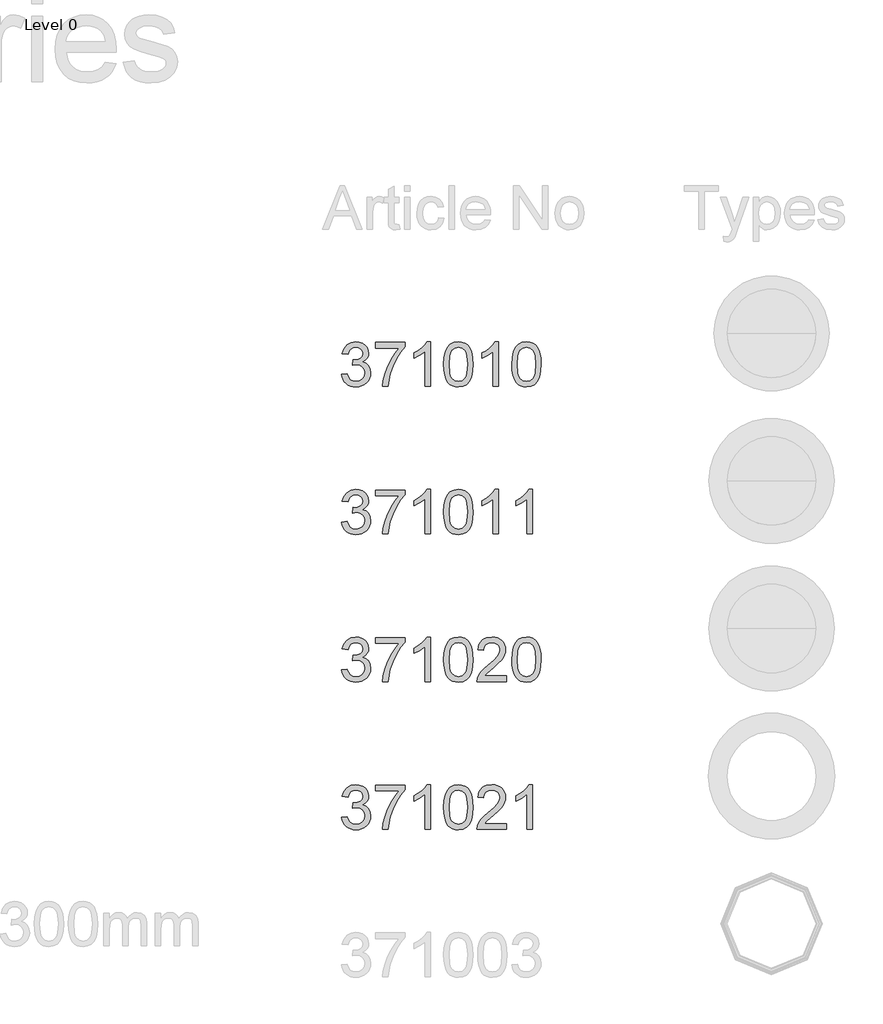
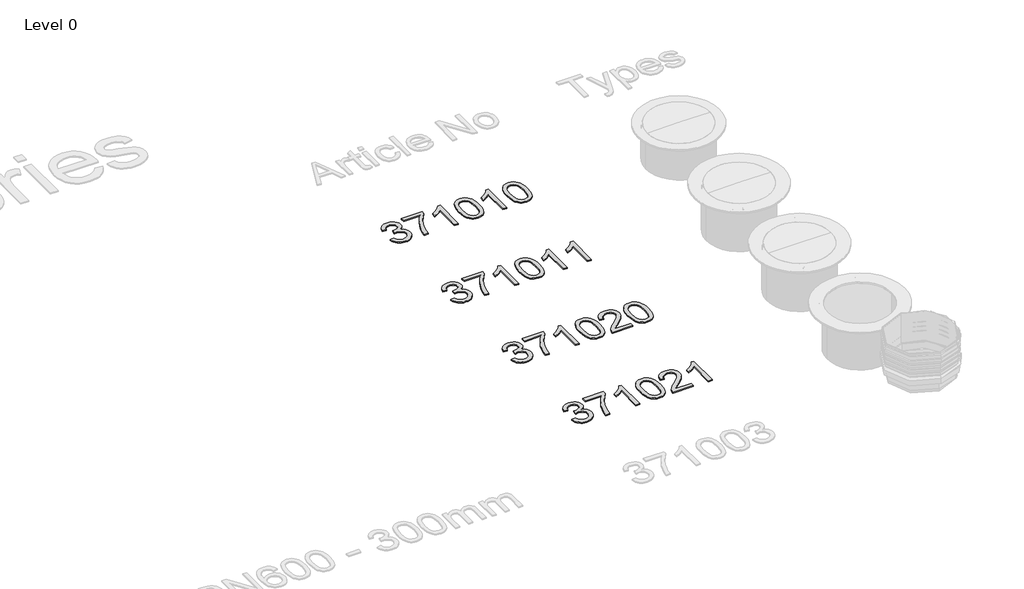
# One storey, part 7 of 14: 4 proxies.
"""IFC4 building model written with IfcOpenShell, lengths in millimetres."""

from ifc_helpers import new_model, si_unit, origin, origin_with_axes, place, context, project, spatial, polyline, outline, extrude, element, save

model = new_model("IFC4")

# Units and contexts
model_context = context("Model", 3, world=origin())
ifc_project = project(units=[si_unit("LENGTHUNIT", "METRE", prefix="MILLI")], contexts=[model_context])

# Site, building, storey
site = spatial("IfcSite", under=ifc_project)
building = spatial("IfcBuilding", under=site)
storey = spatial("IfcBuildingStorey", under=building, Name="Level 0", Elevation=0.0)

# Proxies
placement = place(None, origin())
element("IfcBuildingElementProxy", 1, Name="300mm Arial", ObjectType="300mm Arial", at=placement, inside=storey, context=model_context, shape_type="SweptSolid", body=[
    extrude(outline(polyline([(-6184.7460239, -8329.8209266), (-6147.0749076, -8325.1120371), (-6138.6412129, -8348.7852435), (-6126.2895749, -8364.7697162), (-6109.4129884, -8373.8747955), (-6087.404448, -8376.909822), (-6061.5791319, -8372.7343614), (-6041.6399278, -8360.2079794), (-6028.8928167, -8341.5195741), (-6024.6437796, -8318.8580432), (-6028.8560285, -8297.3461435), (-6041.492775, -8279.8993399), (-6060.6226388, -8268.3386482), (-6084.3142393, -8264.4850843), (-6110.7281665, -8268.6053626), (-6106.5343118, -8230.9342463), (-6100.501047, -8231.3757047), (-6077.9314866, -8228.671772), (-6057.7531592, -8220.5599741), (-6043.516126, -8206.8379756), (-6038.7704482, -8187.3034417), (-6042.2101449, -8171.0338605), (-6052.5292349, -8157.8360939), (-6068.2745843, -8149.0896994), (-6087.9930592, -8146.1742346), (-6107.7483223, -8149.1172906), (-6123.8983419, -8157.9464585), (-6135.6889599, -8172.6617383), (-6142.3660181, -8193.26313), (-6180.0371344, -8188.5542405), (-6168.9454922, -8154.727491), (-6149.2086232, -8129.472392), (-6122.2060848, -8113.7454368), (-6089.3174344, -8108.5031183), (-6065.6350309, -8111.0874893), (-6043.884008, -8118.8406024), (-6025.5450905, -8131.0726787), (-6012.0990036, -8147.0939396), (-6003.8492499, -8165.5524187), (-6001.0993319, -8185.0961497), (-6003.7112941, -8203.3063085), (-6011.5471806, -8219.8242101), (-6024.4966268, -8233.8956964), (-6042.4492682, -8244.7666093), (-6018.8680323, -8254.294753), (-6001.3936375, -8270.518349), (-5990.5779069, -8292.5544805), (-5986.9726633, -8319.5202308), (-5988.7752851, -8338.6317004), (-5994.1831504, -8356.2348539), (-6003.1962593, -8372.3296912), (-6015.8146117, -8386.9162123), (-6031.1874806, -8399.0195299), (-6048.4641388, -8407.6647568), (-6067.6445863, -8412.8518929), (-6088.7288232, -8414.5809383), (-6107.7851105, -8413.1048118), (-6125.1491407, -8408.6764323), (-6140.8209137, -8401.2957998), (-6154.8004295, -8390.9629142), (-6166.5220696, -8378.284781), (-6175.4202154, -8363.8684053), (-6181.4948668, -8347.7137872), (-6184.7460239, -8329.8209266)])), origin_with_axes(), (0.0, 0.0, 1.0), 10.0),
    extrude(outline(polyline([(-5954.0104366, -8150.8831242), (-5954.0104366, -8113.2120079), (-5756.237076, -8113.2120079), (-5756.237076, -8143.6726371), (-5784.4260338, -8179.3479935), (-5812.3390802, -8224.7170406), (-5836.9595827, -8275.6411058), (-5855.2709091, -8327.9815166), (-5864.2472297, -8367.142555), (-5869.2504249, -8409.8720488), (-5906.9215412, -8409.8720488), (-5902.8472481, -8371.0421042), (-5891.948744, -8324.8913079), (-5874.5203345, -8275.9721996), (-5850.8563251, -8228.8373189), (-5823.2283873, -8186.2273869), (-5793.9081923, -8150.8831242), (-5954.0104366, -8150.8831242)])), origin_with_axes(), (0.0, 0.0, 1.0), 10.0),
    extrude(outline(polyline([(-5582.008163, -8409.8720488), (-5619.6792793, -8409.8720488), (-5619.6792793, -8175.016183), (-5655.3638329, -8200.4368289), (-5695.021512, -8219.4563281), (-5695.021512, -8183.8453509), (-5665.4346025, -8167.7505136), (-5639.8024245, -8148.6022558), (-5619.5965059, -8128.2399874), (-5606.2883747, -8108.5031183), (-5582.008163, -8108.5031183), (-5582.008163, -8409.8720488)])), origin_with_axes(), (0.0, 0.0, 1.0), 10.0),
    extrude(outline(polyline([(-5492.5392618, -8261.6156047), (-5489.7709498, -8213.3770781), (-5481.4660138, -8174.9058184), (-5467.7072271, -8145.6132146), (-5448.5773634, -8124.9106553), (-5423.9384668, -8112.6050026), (-5393.6525815, -8108.5031183), (-5370.4392276, -8110.9311395), (-5349.6538949, -8118.215203), (-5332.2714706, -8130.0702003), (-5319.2668421, -8146.2110228), (-5309.4443928, -8166.4997149), (-5301.6085063, -8190.7983206), (-5296.4765525, -8221.654423), (-5294.7659012, -8261.6156047), (-5297.5066221, -8309.5782198), (-5305.7287847, -8347.957509), (-5319.4047978, -8377.277704), (-5338.5070704, -8398.0630367), (-5363.2011494, -8410.4514629), (-5393.6525815, -8414.5809383), (-5414.401126, -8412.7875136), (-5432.7952258, -8407.4072394), (-5448.8348808, -8398.4401158), (-5462.520091, -8385.8861427), (-5475.6534782, -8363.1924221), (-5485.0344691, -8334.9160923), (-5490.6630636, -8301.0571531), (-5492.5392618, -8261.6156047)]), holes=[polyline([(-5454.8681455, -8261.5420283), (-5450.4535616, -8320.7986207), (-5444.9353316, -8341.0666194), (-5437.2098097, -8355.0944197), (-5417.4913348, -8371.4559714), (-5393.6525815, -8376.909822), (-5369.8138282, -8371.4375773), (-5350.0953533, -8355.0208433), (-5342.3698314, -8340.9700503), (-5336.8516015, -8320.7066502), (-5332.4370175, -8261.5420283), (-5336.7044487, -8203.6190082), (-5342.0387376, -8183.4176881), (-5349.5067421, -8169.0564947), (-5369.1884288, -8151.8947997), (-5394.0940399, -8146.1742346), (-5417.6752758, -8151.214218), (-5436.6211985, -8166.334168), (-5444.6042378, -8181.9691528), (-5450.3064088, -8203.0487911), (-5454.8681455, -8261.5420283)])]), origin_with_axes(), (0.0, 0.0, 1.0), 10.0),
    extrude(outline(polyline([(-5120.5369883, -8409.8720488), (-5158.2081046, -8409.8720488), (-5158.2081046, -8175.016183), (-5193.8926581, -8200.4368289), (-5233.5503372, -8219.4563281), (-5233.5503372, -8183.8453509), (-5203.9634277, -8167.7505136), (-5178.3312497, -8148.6022558), (-5158.1253311, -8128.2399874), (-5144.8172, -8108.5031183), (-5120.5369883, -8108.5031183), (-5120.5369883, -8409.8720488)])), origin_with_axes(), (0.0, 0.0, 1.0), 10.0),
    extrude(outline(polyline([(-5031.0680871, -8261.6156047), (-5028.299775, -8213.3770781), (-5019.994839, -8174.9058184), (-5006.2360524, -8145.6132146), (-4987.1061886, -8124.9106553), (-4962.467292, -8112.6050026), (-4932.1814068, -8108.5031183), (-4908.9680529, -8110.9311395), (-4888.1827201, -8118.215203), (-4870.8002959, -8130.0702003), (-4857.7956673, -8146.2110228), (-4847.9732181, -8166.4997149), (-4840.1373316, -8190.7983206), (-4835.0053777, -8221.654423), (-4833.2947265, -8261.6156047), (-4836.0354473, -8309.5782198), (-4844.2576099, -8347.957509), (-4857.9336231, -8377.277704), (-4877.0358957, -8398.0630367), (-4901.7299746, -8410.4514629), (-4932.1814068, -8414.5809383), (-4952.9299513, -8412.7875136), (-4971.324051, -8407.4072394), (-4987.363706, -8398.4401158), (-5001.0489163, -8385.8861427), (-5014.1823035, -8363.1924221), (-5023.5632944, -8334.9160923), (-5029.1918889, -8301.0571531), (-5031.0680871, -8261.6156047)]), holes=[polyline([(-4993.3969708, -8261.5420283), (-4988.9823868, -8320.7986207), (-4983.4641569, -8341.0666194), (-4975.738635, -8355.0944197), (-4956.02016, -8371.4559714), (-4932.1814068, -8376.909822), (-4908.3426535, -8371.4375773), (-4888.6241785, -8355.0208433), (-4880.8986566, -8340.9700503), (-4875.3804267, -8320.7066502), (-4870.9658428, -8261.5420283), (-4875.2332739, -8203.6190082), (-4880.5675628, -8183.4176881), (-4888.0355673, -8169.0564947), (-4907.7172541, -8151.8947997), (-4932.6228652, -8146.1742346), (-4956.204101, -8151.214218), (-4975.1500238, -8166.334168), (-4983.1330631, -8181.9691528), (-4988.835234, -8203.0487911), (-4993.3969708, -8261.5420283)])]), origin_with_axes(), (0.0, 0.0, 1.0), 10.0),
])
element("IfcBuildingElementProxy", 2, Name="300mm Arial", ObjectType="300mm Arial", at=placement, inside=storey, context=model_context, shape_type="SweptSolid", body=[
    extrude(outline(polyline([(-6184.7460239, -9329.8209266), (-6147.0749076, -9325.1120371), (-6138.6412129, -9348.7852435), (-6126.2895749, -9364.7697162), (-6109.4129884, -9373.8747955), (-6087.404448, -9376.909822), (-6061.5791319, -9372.7343614), (-6041.6399278, -9360.2079794), (-6028.8928167, -9341.5195741), (-6024.6437796, -9318.8580432), (-6028.8560285, -9297.3461435), (-6041.492775, -9279.8993399), (-6060.6226388, -9268.3386482), (-6084.3142393, -9264.4850843), (-6110.7281665, -9268.6053626), (-6106.5343118, -9230.9342463), (-6100.501047, -9231.3757047), (-6077.9314866, -9228.671772), (-6057.7531592, -9220.5599741), (-6043.516126, -9206.8379756), (-6038.7704482, -9187.3034417), (-6042.2101449, -9171.0338605), (-6052.5292349, -9157.8360939), (-6068.2745843, -9149.0896994), (-6087.9930592, -9146.1742346), (-6107.7483223, -9149.1172906), (-6123.8983419, -9157.9464585), (-6135.6889599, -9172.6617383), (-6142.3660181, -9193.26313), (-6180.0371344, -9188.5542405), (-6168.9454922, -9154.727491), (-6149.2086232, -9129.472392), (-6122.2060848, -9113.7454368), (-6089.3174344, -9108.5031183), (-6065.6350309, -9111.0874893), (-6043.884008, -9118.8406024), (-6025.5450905, -9131.0726787), (-6012.0990036, -9147.0939396), (-6003.8492499, -9165.5524187), (-6001.0993319, -9185.0961497), (-6003.7112941, -9203.3063085), (-6011.5471806, -9219.8242101), (-6024.4966268, -9233.8956964), (-6042.4492682, -9244.7666093), (-6018.8680323, -9254.294753), (-6001.3936375, -9270.518349), (-5990.5779069, -9292.5544805), (-5986.9726633, -9319.5202308), (-5988.7752851, -9338.6317004), (-5994.1831504, -9356.2348539), (-6003.1962593, -9372.3296912), (-6015.8146117, -9386.9162123), (-6031.1874806, -9399.0195299), (-6048.4641388, -9407.6647568), (-6067.6445863, -9412.8518929), (-6088.7288232, -9414.5809383), (-6107.7851105, -9413.1048118), (-6125.1491407, -9408.6764323), (-6140.8209137, -9401.2957998), (-6154.8004295, -9390.9629142), (-6166.5220696, -9378.284781), (-6175.4202154, -9363.8684053), (-6181.4948668, -9347.7137872), (-6184.7460239, -9329.8209266)])), origin_with_axes(), (0.0, 0.0, 1.0), 10.0),
    extrude(outline(polyline([(-5954.0104366, -9150.8831242), (-5954.0104366, -9113.2120079), (-5756.237076, -9113.2120079), (-5756.237076, -9143.6726371), (-5784.4260338, -9179.3479935), (-5812.3390802, -9224.7170406), (-5836.9595827, -9275.6411058), (-5855.2709091, -9327.9815166), (-5864.2472297, -9367.142555), (-5869.2504249, -9409.8720488), (-5906.9215412, -9409.8720488), (-5902.8472481, -9371.0421042), (-5891.948744, -9324.8913079), (-5874.5203345, -9275.9721996), (-5850.8563251, -9228.8373189), (-5823.2283873, -9186.2273869), (-5793.9081923, -9150.8831242), (-5954.0104366, -9150.8831242)])), origin_with_axes(), (0.0, 0.0, 1.0), 10.0),
    extrude(outline(polyline([(-5582.008163, -9409.8720488), (-5619.6792793, -9409.8720488), (-5619.6792793, -9175.016183), (-5655.3638329, -9200.4368289), (-5695.021512, -9219.4563281), (-5695.021512, -9183.8453509), (-5665.4346025, -9167.7505136), (-5639.8024245, -9148.6022558), (-5619.5965059, -9128.2399874), (-5606.2883747, -9108.5031183), (-5582.008163, -9108.5031183), (-5582.008163, -9409.8720488)])), origin_with_axes(), (0.0, 0.0, 1.0), 10.0),
    extrude(outline(polyline([(-5492.5392618, -9261.6156047), (-5489.7709498, -9213.3770781), (-5481.4660138, -9174.9058184), (-5467.7072271, -9145.6132146), (-5448.5773634, -9124.9106553), (-5423.9384668, -9112.6050026), (-5393.6525815, -9108.5031183), (-5370.4392276, -9110.9311395), (-5349.6538949, -9118.215203), (-5332.2714706, -9130.0702003), (-5319.2668421, -9146.2110228), (-5309.4443928, -9166.4997149), (-5301.6085063, -9190.7983206), (-5296.4765525, -9221.654423), (-5294.7659012, -9261.6156047), (-5297.5066221, -9309.5782198), (-5305.7287847, -9347.957509), (-5319.4047978, -9377.277704), (-5338.5070704, -9398.0630367), (-5363.2011494, -9410.4514629), (-5393.6525815, -9414.5809383), (-5414.401126, -9412.7875136), (-5432.7952258, -9407.4072394), (-5448.8348808, -9398.4401158), (-5462.520091, -9385.8861427), (-5475.6534782, -9363.1924221), (-5485.0344691, -9334.9160923), (-5490.6630636, -9301.0571531), (-5492.5392618, -9261.6156047)]), holes=[polyline([(-5454.8681455, -9261.5420283), (-5450.4535616, -9320.7986207), (-5444.9353316, -9341.0666194), (-5437.2098097, -9355.0944197), (-5417.4913348, -9371.4559714), (-5393.6525815, -9376.909822), (-5369.8138282, -9371.4375773), (-5350.0953533, -9355.0208433), (-5342.3698314, -9340.9700503), (-5336.8516015, -9320.7066502), (-5332.4370175, -9261.5420283), (-5336.7044487, -9203.6190082), (-5342.0387376, -9183.4176881), (-5349.5067421, -9169.0564947), (-5369.1884288, -9151.8947997), (-5394.0940399, -9146.1742346), (-5417.6752758, -9151.214218), (-5436.6211985, -9166.334168), (-5444.6042378, -9181.9691528), (-5450.3064088, -9203.0487911), (-5454.8681455, -9261.5420283)])]), origin_with_axes(), (0.0, 0.0, 1.0), 10.0),
    extrude(outline(polyline([(-5120.5369883, -9409.8720488), (-5158.2081046, -9409.8720488), (-5158.2081046, -9175.016183), (-5193.8926581, -9200.4368289), (-5233.5503372, -9219.4563281), (-5233.5503372, -9183.8453509), (-5203.9634277, -9167.7505136), (-5178.3312497, -9148.6022558), (-5158.1253311, -9128.2399874), (-5144.8172, -9108.5031183), (-5120.5369883, -9108.5031183), (-5120.5369883, -9409.8720488)])), origin_with_axes(), (0.0, 0.0, 1.0), 10.0),
    extrude(outline(polyline([(-4889.8014009, -9409.8720488), (-4927.4725172, -9409.8720488), (-4927.4725172, -9175.016183), (-4963.1570708, -9200.4368289), (-5002.8147498, -9219.4563281), (-5002.8147498, -9183.8453509), (-4973.2278404, -9167.7505136), (-4947.5956624, -9148.6022558), (-4927.3897438, -9128.2399874), (-4914.0816126, -9108.5031183), (-4889.8014009, -9108.5031183), (-4889.8014009, -9409.8720488)])), origin_with_axes(), (0.0, 0.0, 1.0), 10.0),
])
element("IfcBuildingElementProxy", 3, Name="300mm Arial", ObjectType="300mm Arial", at=placement, inside=storey, context=model_context, shape_type="SweptSolid", body=[
    extrude(outline(polyline([(-6184.7460239, -10329.8209266), (-6147.0749076, -10325.1120371), (-6138.6412129, -10348.7852435), (-6126.2895749, -10364.7697162), (-6109.4129884, -10373.8747955), (-6087.404448, -10376.909822), (-6061.5791319, -10372.7343614), (-6041.6399278, -10360.2079794), (-6028.8928167, -10341.5195741), (-6024.6437796, -10318.8580432), (-6028.8560285, -10297.3461435), (-6041.492775, -10279.8993399), (-6060.6226388, -10268.3386482), (-6084.3142393, -10264.4850843), (-6110.7281665, -10268.6053626), (-6106.5343118, -10230.9342463), (-6100.501047, -10231.3757047), (-6077.9314866, -10228.671772), (-6057.7531592, -10220.5599741), (-6043.516126, -10206.8379756), (-6038.7704482, -10187.3034417), (-6042.2101449, -10171.0338605), (-6052.5292349, -10157.8360939), (-6068.2745843, -10149.0896994), (-6087.9930592, -10146.1742346), (-6107.7483223, -10149.1172906), (-6123.8983419, -10157.9464585), (-6135.6889599, -10172.6617383), (-6142.3660181, -10193.26313), (-6180.0371344, -10188.5542405), (-6168.9454922, -10154.727491), (-6149.2086232, -10129.472392), (-6122.2060848, -10113.7454368), (-6089.3174344, -10108.5031183), (-6065.6350309, -10111.0874893), (-6043.884008, -10118.8406024), (-6025.5450905, -10131.0726787), (-6012.0990036, -10147.0939396), (-6003.8492499, -10165.5524187), (-6001.0993319, -10185.0961497), (-6003.7112941, -10203.3063085), (-6011.5471806, -10219.8242101), (-6024.4966268, -10233.8956964), (-6042.4492682, -10244.7666093), (-6018.8680323, -10254.294753), (-6001.3936375, -10270.518349), (-5990.5779069, -10292.5544805), (-5986.9726633, -10319.5202308), (-5988.7752851, -10338.6317004), (-5994.1831504, -10356.2348539), (-6003.1962593, -10372.3296912), (-6015.8146117, -10386.9162123), (-6031.1874806, -10399.0195299), (-6048.4641388, -10407.6647568), (-6067.6445863, -10412.8518929), (-6088.7288232, -10414.5809383), (-6107.7851105, -10413.1048118), (-6125.1491407, -10408.6764323), (-6140.8209137, -10401.2957998), (-6154.8004295, -10390.9629142), (-6166.5220696, -10378.284781), (-6175.4202154, -10363.8684053), (-6181.4948668, -10347.7137872), (-6184.7460239, -10329.8209266)])), origin_with_axes(), (0.0, 0.0, 1.0), 10.0),
    extrude(outline(polyline([(-5954.0104366, -10150.8831242), (-5954.0104366, -10113.2120079), (-5756.237076, -10113.2120079), (-5756.237076, -10143.6726371), (-5784.4260338, -10179.3479935), (-5812.3390802, -10224.7170406), (-5836.9595827, -10275.6411058), (-5855.2709091, -10327.9815166), (-5864.2472297, -10367.142555), (-5869.2504249, -10409.8720488), (-5906.9215412, -10409.8720488), (-5902.8472481, -10371.0421042), (-5891.948744, -10324.8913079), (-5874.5203345, -10275.9721996), (-5850.8563251, -10228.8373189), (-5823.2283873, -10186.2273869), (-5793.9081923, -10150.8831242), (-5954.0104366, -10150.8831242)])), origin_with_axes(), (0.0, 0.0, 1.0), 10.0),
    extrude(outline(polyline([(-5582.008163, -10409.8720488), (-5619.6792793, -10409.8720488), (-5619.6792793, -10175.016183), (-5655.3638329, -10200.4368289), (-5695.021512, -10219.4563281), (-5695.021512, -10183.8453509), (-5665.4346025, -10167.7505136), (-5639.8024245, -10148.6022558), (-5619.5965059, -10128.2399874), (-5606.2883747, -10108.5031183), (-5582.008163, -10108.5031183), (-5582.008163, -10409.8720488)])), origin_with_axes(), (0.0, 0.0, 1.0), 10.0),
    extrude(outline(polyline([(-5492.5392618, -10261.6156047), (-5489.7709498, -10213.3770781), (-5481.4660138, -10174.9058184), (-5467.7072271, -10145.6132146), (-5448.5773634, -10124.9106553), (-5423.9384668, -10112.6050026), (-5393.6525815, -10108.5031183), (-5370.4392276, -10110.9311395), (-5349.6538949, -10118.215203), (-5332.2714706, -10130.0702003), (-5319.2668421, -10146.2110228), (-5309.4443928, -10166.4997149), (-5301.6085063, -10190.7983206), (-5296.4765525, -10221.654423), (-5294.7659012, -10261.6156047), (-5297.5066221, -10309.5782198), (-5305.7287847, -10347.957509), (-5319.4047978, -10377.277704), (-5338.5070704, -10398.0630367), (-5363.2011494, -10410.4514629), (-5393.6525815, -10414.5809383), (-5414.401126, -10412.7875136), (-5432.7952258, -10407.4072394), (-5448.8348808, -10398.4401158), (-5462.520091, -10385.8861427), (-5475.6534782, -10363.1924221), (-5485.0344691, -10334.9160923), (-5490.6630636, -10301.0571531), (-5492.5392618, -10261.6156047)]), holes=[polyline([(-5454.8681455, -10261.5420283), (-5450.4535616, -10320.7986207), (-5444.9353316, -10341.0666194), (-5437.2098097, -10355.0944197), (-5417.4913348, -10371.4559714), (-5393.6525815, -10376.909822), (-5369.8138282, -10371.4375773), (-5350.0953533, -10355.0208433), (-5342.3698314, -10340.9700503), (-5336.8516015, -10320.7066502), (-5332.4370175, -10261.5420283), (-5336.7044487, -10203.6190082), (-5342.0387376, -10183.4176881), (-5349.5067421, -10169.0564947), (-5369.1884288, -10151.8947997), (-5394.0940399, -10146.1742346), (-5417.6752758, -10151.214218), (-5436.6211985, -10166.334168), (-5444.6042378, -10181.9691528), (-5450.3064088, -10203.0487911), (-5454.8681455, -10261.5420283)])]), origin_with_axes(), (0.0, 0.0, 1.0), 10.0),
    extrude(outline(polyline([(-5068.7392034, -10372.2009325), (-5068.7392034, -10409.8720488), (-5266.512564, -10409.8720488), (-5262.465862, -10383.8995799), (-5253.1768416, -10363.6016908), (-5239.5836019, -10343.910807), (-5219.9203093, -10323.3002183), (-5192.4211301, -10300.2432142), (-5151.7701697, -10264.1355964), (-5127.3795934, -10237.4825458), (-5115.1843053, -10215.8510845), (-5111.1192092, -10194.8082344), (-5114.954379, -10175.9450851), (-5126.4598884, -10160.264115), (-5144.1458153, -10149.6967047), (-5166.5222377, -10146.1742346), (-5190.0207001, -10149.6139313), (-5208.2768441, -10159.9330212), (-5220.058265, -10176.3221641), (-5224.1325581, -10197.9720195), (-5261.8036744, -10193.26313), (-5252.6710039, -10156.8244184), (-5244.1246453, -10142.2884811), (-5232.9249378, -10130.208156), (-5219.3293988, -10120.712202), (-5203.5955457, -10113.9293777), (-5165.7128973, -10108.5031183), (-5145.5230735, -10110.0114345), (-5127.5543373, -10114.536383), (-5111.8066887, -10122.0779639), (-5098.2801276, -10132.6361772), (-5087.4161124, -10145.4292736), (-5079.6561016, -10159.6755038), (-5075.0000951, -10175.374868), (-5073.4480929, -10192.527366), (-5075.121956, -10210.5443867), (-5080.1435452, -10228.2487078), (-5089.0554866, -10246.2565314), (-5102.4004059, -10265.1840601), (-5123.6731823, -10287.7812116), (-5156.3686946, -10316.797904), (-5199.7051936, -10353.0342805), (-5216.7013418, -10372.2009325), (-5068.7392034, -10372.2009325)])), origin_with_axes(), (0.0, 0.0, 1.0), 10.0),
    extrude(outline(polyline([(-5031.0680871, -10261.6156047), (-5028.299775, -10213.3770781), (-5019.994839, -10174.9058184), (-5006.2360524, -10145.6132146), (-4987.1061886, -10124.9106553), (-4962.467292, -10112.6050026), (-4932.1814068, -10108.5031183), (-4908.9680529, -10110.9311395), (-4888.1827201, -10118.215203), (-4870.8002959, -10130.0702003), (-4857.7956673, -10146.2110228), (-4847.9732181, -10166.4997149), (-4840.1373316, -10190.7983206), (-4835.0053777, -10221.654423), (-4833.2947265, -10261.6156047), (-4836.0354473, -10309.5782198), (-4844.2576099, -10347.957509), (-4857.9336231, -10377.277704), (-4877.0358957, -10398.0630367), (-4901.7299746, -10410.4514629), (-4932.1814068, -10414.5809383), (-4952.9299513, -10412.7875136), (-4971.324051, -10407.4072394), (-4987.363706, -10398.4401158), (-5001.0489163, -10385.8861427), (-5014.1823035, -10363.1924221), (-5023.5632944, -10334.9160923), (-5029.1918889, -10301.0571531), (-5031.0680871, -10261.6156047)]), holes=[polyline([(-4993.3969708, -10261.5420283), (-4988.9823868, -10320.7986207), (-4983.4641569, -10341.0666194), (-4975.738635, -10355.0944197), (-4956.02016, -10371.4559714), (-4932.1814068, -10376.909822), (-4908.3426535, -10371.4375773), (-4888.6241785, -10355.0208433), (-4880.8986566, -10340.9700503), (-4875.3804267, -10320.7066502), (-4870.9658428, -10261.5420283), (-4875.2332739, -10203.6190082), (-4880.5675628, -10183.4176881), (-4888.0355673, -10169.0564947), (-4907.7172541, -10151.8947997), (-4932.6228652, -10146.1742346), (-4956.204101, -10151.214218), (-4975.1500238, -10166.334168), (-4983.1330631, -10181.9691528), (-4988.835234, -10203.0487911), (-4993.3969708, -10261.5420283)])]), origin_with_axes(), (0.0, 0.0, 1.0), 10.0),
])
element("IfcBuildingElementProxy", 4, Name="300mm Arial", ObjectType="300mm Arial", at=placement, inside=storey, context=model_context, shape_type="SweptSolid", body=[
    extrude(outline(polyline([(-6184.7460239, -11329.8209266), (-6147.0749076, -11325.1120371), (-6138.6412129, -11348.7852435), (-6126.2895749, -11364.7697162), (-6109.4129884, -11373.8747955), (-6087.404448, -11376.909822), (-6061.5791319, -11372.7343614), (-6041.6399278, -11360.2079794), (-6028.8928167, -11341.5195741), (-6024.6437796, -11318.8580432), (-6028.8560285, -11297.3461435), (-6041.492775, -11279.8993399), (-6060.6226388, -11268.3386482), (-6084.3142393, -11264.4850843), (-6110.7281665, -11268.6053626), (-6106.5343118, -11230.9342463), (-6100.501047, -11231.3757047), (-6077.9314866, -11228.671772), (-6057.7531592, -11220.5599741), (-6043.516126, -11206.8379756), (-6038.7704482, -11187.3034417), (-6042.2101449, -11171.0338605), (-6052.5292349, -11157.8360939), (-6068.2745843, -11149.0896994), (-6087.9930592, -11146.1742346), (-6107.7483223, -11149.1172906), (-6123.8983419, -11157.9464585), (-6135.6889599, -11172.6617383), (-6142.3660181, -11193.26313), (-6180.0371344, -11188.5542405), (-6168.9454922, -11154.727491), (-6149.2086232, -11129.472392), (-6122.2060848, -11113.7454368), (-6089.3174344, -11108.5031183), (-6065.6350309, -11111.0874893), (-6043.884008, -11118.8406024), (-6025.5450905, -11131.0726787), (-6012.0990036, -11147.0939396), (-6003.8492499, -11165.5524187), (-6001.0993319, -11185.0961497), (-6003.7112941, -11203.3063085), (-6011.5471806, -11219.8242101), (-6024.4966268, -11233.8956964), (-6042.4492682, -11244.7666093), (-6018.8680323, -11254.294753), (-6001.3936375, -11270.518349), (-5990.5779069, -11292.5544805), (-5986.9726633, -11319.5202308), (-5988.7752851, -11338.6317004), (-5994.1831504, -11356.2348539), (-6003.1962593, -11372.3296912), (-6015.8146117, -11386.9162123), (-6031.1874806, -11399.0195299), (-6048.4641388, -11407.6647568), (-6067.6445863, -11412.8518929), (-6088.7288232, -11414.5809383), (-6107.7851105, -11413.1048118), (-6125.1491407, -11408.6764323), (-6140.8209137, -11401.2957998), (-6154.8004295, -11390.9629142), (-6166.5220696, -11378.284781), (-6175.4202154, -11363.8684053), (-6181.4948668, -11347.7137872), (-6184.7460239, -11329.8209266)])), origin_with_axes(), (0.0, 0.0, 1.0), 10.0),
    extrude(outline(polyline([(-5954.0104366, -11150.8831242), (-5954.0104366, -11113.2120079), (-5756.237076, -11113.2120079), (-5756.237076, -11143.6726371), (-5784.4260338, -11179.3479935), (-5812.3390802, -11224.7170406), (-5836.9595827, -11275.6411058), (-5855.2709091, -11327.9815166), (-5864.2472297, -11367.142555), (-5869.2504249, -11409.8720488), (-5906.9215412, -11409.8720488), (-5902.8472481, -11371.0421042), (-5891.948744, -11324.8913079), (-5874.5203345, -11275.9721996), (-5850.8563251, -11228.8373189), (-5823.2283873, -11186.2273869), (-5793.9081923, -11150.8831242), (-5954.0104366, -11150.8831242)])), origin_with_axes(), (0.0, 0.0, 1.0), 10.0),
    extrude(outline(polyline([(-5582.008163, -11409.8720488), (-5619.6792793, -11409.8720488), (-5619.6792793, -11175.016183), (-5655.3638329, -11200.4368289), (-5695.021512, -11219.4563281), (-5695.021512, -11183.8453509), (-5665.4346025, -11167.7505136), (-5639.8024245, -11148.6022558), (-5619.5965059, -11128.2399874), (-5606.2883747, -11108.5031183), (-5582.008163, -11108.5031183), (-5582.008163, -11409.8720488)])), origin_with_axes(), (0.0, 0.0, 1.0), 10.0),
    extrude(outline(polyline([(-5492.5392618, -11261.6156047), (-5489.7709498, -11213.3770781), (-5481.4660138, -11174.9058184), (-5467.7072271, -11145.6132146), (-5448.5773634, -11124.9106553), (-5423.9384668, -11112.6050026), (-5393.6525815, -11108.5031183), (-5370.4392276, -11110.9311395), (-5349.6538949, -11118.215203), (-5332.2714706, -11130.0702003), (-5319.2668421, -11146.2110228), (-5309.4443928, -11166.4997149), (-5301.6085063, -11190.7983206), (-5296.4765525, -11221.654423), (-5294.7659012, -11261.6156047), (-5297.5066221, -11309.5782198), (-5305.7287847, -11347.957509), (-5319.4047978, -11377.277704), (-5338.5070704, -11398.0630367), (-5363.2011494, -11410.4514629), (-5393.6525815, -11414.5809383), (-5414.401126, -11412.7875136), (-5432.7952258, -11407.4072394), (-5448.8348808, -11398.4401158), (-5462.520091, -11385.8861427), (-5475.6534782, -11363.1924221), (-5485.0344691, -11334.9160923), (-5490.6630636, -11301.0571531), (-5492.5392618, -11261.6156047)]), holes=[polyline([(-5454.8681455, -11261.5420283), (-5450.4535616, -11320.7986207), (-5444.9353316, -11341.0666194), (-5437.2098097, -11355.0944197), (-5417.4913348, -11371.4559714), (-5393.6525815, -11376.909822), (-5369.8138282, -11371.4375773), (-5350.0953533, -11355.0208433), (-5342.3698314, -11340.9700503), (-5336.8516015, -11320.7066502), (-5332.4370175, -11261.5420283), (-5336.7044487, -11203.6190082), (-5342.0387376, -11183.4176881), (-5349.5067421, -11169.0564947), (-5369.1884288, -11151.8947997), (-5394.0940399, -11146.1742346), (-5417.6752758, -11151.214218), (-5436.6211985, -11166.334168), (-5444.6042378, -11181.9691528), (-5450.3064088, -11203.0487911), (-5454.8681455, -11261.5420283)])]), origin_with_axes(), (0.0, 0.0, 1.0), 10.0),
    extrude(outline(polyline([(-5068.7392034, -11372.2009325), (-5068.7392034, -11409.8720488), (-5266.512564, -11409.8720488), (-5262.465862, -11383.8995799), (-5253.1768416, -11363.6016908), (-5239.5836019, -11343.910807), (-5219.9203093, -11323.3002183), (-5192.4211301, -11300.2432142), (-5151.7701697, -11264.1355964), (-5127.3795934, -11237.4825458), (-5115.1843053, -11215.8510845), (-5111.1192092, -11194.8082344), (-5114.954379, -11175.9450851), (-5126.4598884, -11160.264115), (-5144.1458153, -11149.6967047), (-5166.5222377, -11146.1742346), (-5190.0207001, -11149.6139313), (-5208.2768441, -11159.9330212), (-5220.058265, -11176.3221641), (-5224.1325581, -11197.9720195), (-5261.8036744, -11193.26313), (-5252.6710039, -11156.8244184), (-5244.1246453, -11142.2884811), (-5232.9249378, -11130.208156), (-5219.3293988, -11120.712202), (-5203.5955457, -11113.9293777), (-5165.7128973, -11108.5031183), (-5145.5230735, -11110.0114345), (-5127.5543373, -11114.536383), (-5111.8066887, -11122.0779639), (-5098.2801276, -11132.6361772), (-5087.4161124, -11145.4292736), (-5079.6561016, -11159.6755038), (-5075.0000951, -11175.374868), (-5073.4480929, -11192.527366), (-5075.121956, -11210.5443867), (-5080.1435452, -11228.2487078), (-5089.0554866, -11246.2565314), (-5102.4004059, -11265.1840601), (-5123.6731823, -11287.7812116), (-5156.3686946, -11316.797904), (-5199.7051936, -11353.0342805), (-5216.7013418, -11372.2009325), (-5068.7392034, -11372.2009325)])), origin_with_axes(), (0.0, 0.0, 1.0), 10.0),
    extrude(outline(polyline([(-4889.8014009, -11409.8720488), (-4927.4725172, -11409.8720488), (-4927.4725172, -11175.016183), (-4963.1570708, -11200.4368289), (-5002.8147498, -11219.4563281), (-5002.8147498, -11183.8453509), (-4973.2278404, -11167.7505136), (-4947.5956624, -11148.6022558), (-4927.3897438, -11128.2399874), (-4914.0816126, -11108.5031183), (-4889.8014009, -11108.5031183), (-4889.8014009, -11409.8720488)])), origin_with_axes(), (0.0, 0.0, 1.0), 10.0),
])

save(model, "model.ifc")
